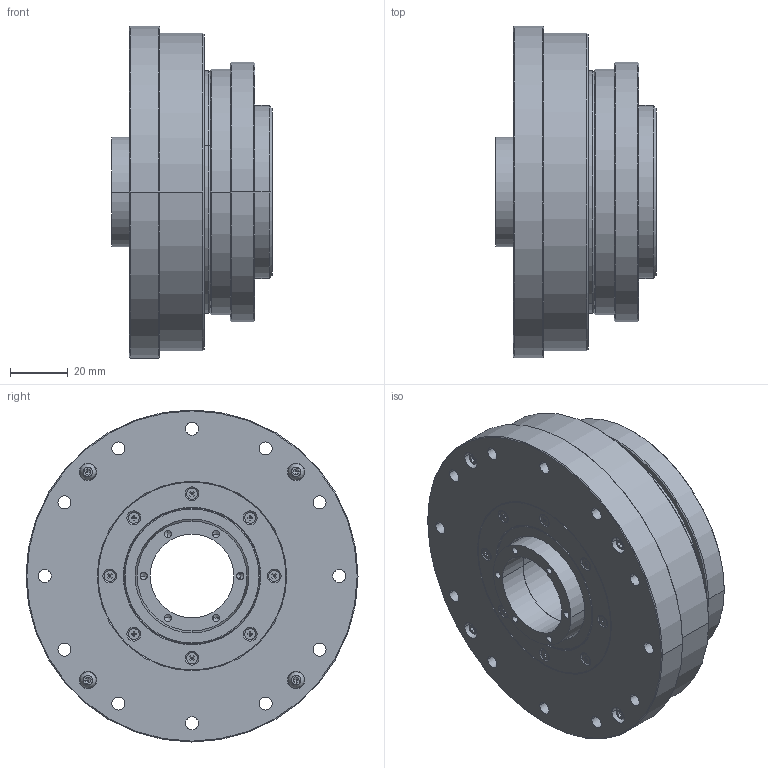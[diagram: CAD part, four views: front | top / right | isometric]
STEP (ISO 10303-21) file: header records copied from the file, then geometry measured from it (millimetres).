
FILE_DESCRIPTION (( 'STEP AP203' ), '1' );
FILE_NAME ('LHS-25-XXX-C-III.step', '2025-01-07T06:18:48', ( '' ), ( '' ), 'SwSTEP 2.0', 'SolidWorks 2023', '' );
FILE_SCHEMA (( 'CONFIG_CONTROL_DESIGN' ));
Length unit declared in the file: metre
Products named in the file (1): LHS-25-XXX-C-III
Bounding box: 55.5 x 115 x 115 mm (x, y, z)
Volume: 261681.5 mm3; surface area: 192298 mm2
Topology: 58 solids, 58 shells, 2032 faces, 5720 edges, 3539 vertices
Faces by surface type: bspline 645, cylinder 612, plane 459, cone 316
Entity records: 80239 total; most frequent: CARTESIAN_POINT 31701, ORIENTED_EDGE 11016, DIRECTION 9264, EDGE_CURVE 5508, AXIS2_PLACEMENT_3D 3916, VERTEX_POINT 3539, CIRCLE 2528, EDGE_LOOP 2411
